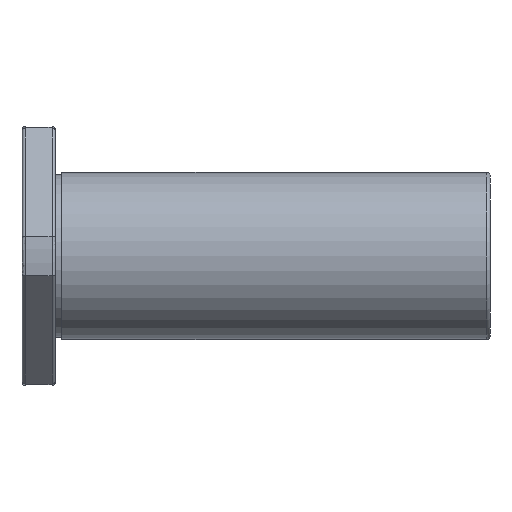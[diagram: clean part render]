
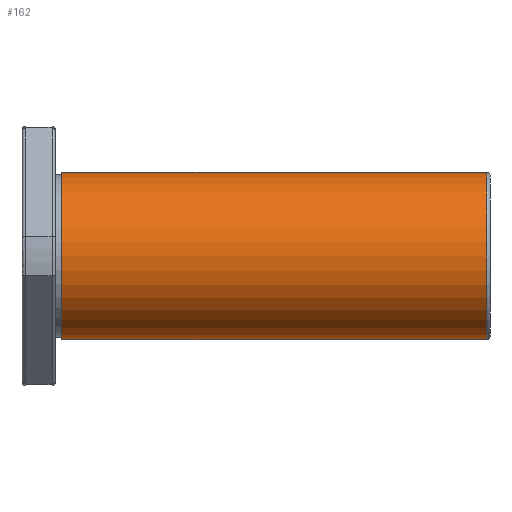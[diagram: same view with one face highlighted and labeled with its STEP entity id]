
A CAD part, front view. The second image highlights one B-rep face of the part: STEP entity #162.
In plain terms, the highlighted cylindrical face has radius 20 mm (diameter 40 mm), a full revolution.
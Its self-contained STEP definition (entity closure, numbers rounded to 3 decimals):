
#162 = ADVANCED_FACE( '', ( #350, #351 ), #352, .T. );
#350 = FACE_OUTER_BOUND( '', #533, .T. );
#351 = FACE_OUTER_BOUND( '', #534, .T. );
#352 = CYLINDRICAL_SURFACE( '', #535, 20. );
#533 = EDGE_LOOP( '', ( #891 ) );
#534 = EDGE_LOOP( '', ( #892 ) );
#535 = AXIS2_PLACEMENT_3D( '', #893, #894, #895 );
#891 = ORIENTED_EDGE( '', *, *, #974, .F. );
#892 = ORIENTED_EDGE( '', *, *, #968, .T. );
#893 = CARTESIAN_POINT( '', ( 33.4, 0., 0. ) );
#894 = DIRECTION( '', ( -1., 0., 0. ) );
#895 = DIRECTION( '', ( 0., 1., 0. ) );
#968 = EDGE_CURVE( '', #1139, #1139, #1140, .F. );
#974 = EDGE_CURVE( '', #1149, #1149, #1150, .F. );
#1139 = VERTEX_POINT( '', #1396 );
#1140 = CIRCLE( '', #1397, 20. );
#1149 = VERTEX_POINT( '', #1406 );
#1150 = CIRCLE( '', #1407, 20. );
#1396 = CARTESIAN_POINT( '', ( 111.2, 20., 0. ) );
#1397 = AXIS2_PLACEMENT_3D( '', #1659, #1660, #1661 );
#1406 = CARTESIAN_POINT( '', ( 9.5, 0., -20. ) );
#1407 = AXIS2_PLACEMENT_3D( '', #1671, #1672, #1673 );
#1659 = CARTESIAN_POINT( '', ( 111.2, 0., 0. ) );
#1660 = DIRECTION( '', ( 1., 0., 0. ) );
#1661 = DIRECTION( '', ( 0., 0., -1. ) );
#1671 = CARTESIAN_POINT( '', ( 9.5, 0., 0. ) );
#1672 = DIRECTION( '', ( 1., 0., 0. ) );
#1673 = DIRECTION( '', ( 0., 0., -1. ) );
